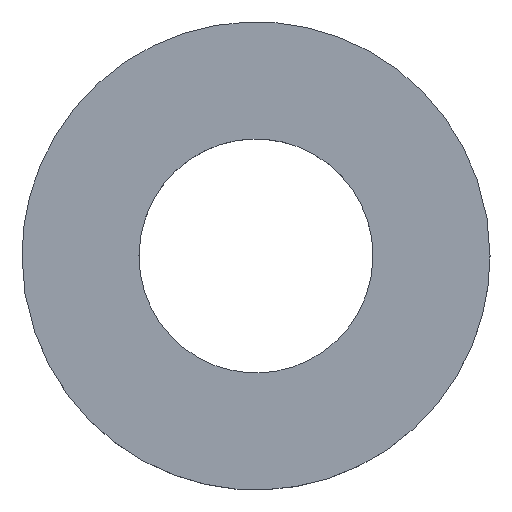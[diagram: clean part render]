
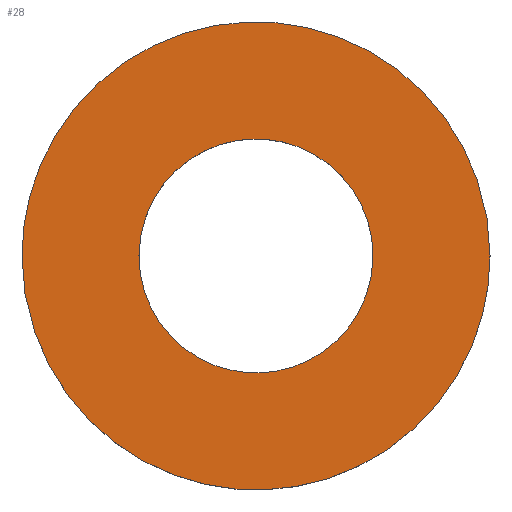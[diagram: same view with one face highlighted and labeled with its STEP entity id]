
A CAD part, top view. The second image highlights one B-rep face of the part: STEP entity #28.
In plain terms, the highlighted planar face has unit normal (0, 0, 1).
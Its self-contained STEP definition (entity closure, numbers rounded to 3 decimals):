
#25=FACE_BOUND('',#42,.T.);
#28=ADVANCED_FACE('',(#34,#25),#103,.T.);
#34=FACE_OUTER_BOUND('',#41,.T.);
#41=EDGE_LOOP('',(#54,#55));
#42=EDGE_LOOP('',(#56,#57));
#54=ORIENTED_EDGE('',*,*,#72,.T.);
#55=ORIENTED_EDGE('',*,*,#78,.T.);
#56=ORIENTED_EDGE('',*,*,#74,.T.);
#57=ORIENTED_EDGE('',*,*,#81,.T.);
#72=EDGE_CURVE('',#95,#99,#84,.T.);
#74=EDGE_CURVE('',#97,#101,#86,.T.);
#78=EDGE_CURVE('',#99,#95,#90,.T.);
#81=EDGE_CURVE('',#101,#97,#93,.T.);
#84=(
BOUNDED_CURVE()
B_SPLINE_CURVE(2,(#195,#196,#197,#198,#199),.UNSPECIFIED.,.F.,.F.)
B_SPLINE_CURVE_WITH_KNOTS((3,2,3),(0.,50.265,100.531),
 .UNSPECIFIED.)
CURVE()
GEOMETRIC_REPRESENTATION_ITEM()
RATIONAL_B_SPLINE_CURVE((1.,0.707,1.,0.707,1.))
REPRESENTATION_ITEM('')
);
#86=(
BOUNDED_CURVE()
B_SPLINE_CURVE(2,(#205,#206,#207,#208,#209),.UNSPECIFIED.,.F.,.F.)
B_SPLINE_CURVE_WITH_KNOTS((3,2,3),(-100.531,-75.398,-50.265),
 .UNSPECIFIED.)
CURVE()
GEOMETRIC_REPRESENTATION_ITEM()
RATIONAL_B_SPLINE_CURVE((1.,0.707,1.,0.707,1.))
REPRESENTATION_ITEM('')
);
#90=(
BOUNDED_CURVE()
B_SPLINE_CURVE(2,(#219,#220,#221,#222,#223),.UNSPECIFIED.,.F.,.F.)
B_SPLINE_CURVE_WITH_KNOTS((3,2,3),(100.531,150.796,201.062),
 .UNSPECIFIED.)
CURVE()
GEOMETRIC_REPRESENTATION_ITEM()
RATIONAL_B_SPLINE_CURVE((1.,0.707,1.,0.707,1.))
REPRESENTATION_ITEM('')
);
#93=(
BOUNDED_CURVE()
B_SPLINE_CURVE(2,(#231,#232,#233,#234,#235),.UNSPECIFIED.,.F.,.F.)
B_SPLINE_CURVE_WITH_KNOTS((3,2,3),(-50.265,-25.133,
0.),.UNSPECIFIED.)
CURVE()
GEOMETRIC_REPRESENTATION_ITEM()
RATIONAL_B_SPLINE_CURVE((1.,0.707,1.,0.707,1.))
REPRESENTATION_ITEM('')
);
#95=VERTEX_POINT('',#181);
#97=VERTEX_POINT('',#183);
#99=VERTEX_POINT('',#185);
#101=VERTEX_POINT('',#187);
#103=PLANE('',#129);
#129=AXIS2_PLACEMENT_3D('',#149,#134,$);
#134=DIRECTION('',(0.,0.,1.));
#149=CARTESIAN_POINT('',(-40.,-40.,30.));
#181=CARTESIAN_POINT('',(32.,0.,30.));
#183=CARTESIAN_POINT('',(16.,0.,30.));
#185=CARTESIAN_POINT('',(-32.,0.,30.));
#187=CARTESIAN_POINT('',(-16.,0.,30.));
#195=CARTESIAN_POINT('',(32.,0.,30.));
#196=CARTESIAN_POINT('',(32.,32.,30.));
#197=CARTESIAN_POINT('',(0.,32.,30.));
#198=CARTESIAN_POINT('',(-32.,32.,30.));
#199=CARTESIAN_POINT('',(-32.,0.,30.));
#205=CARTESIAN_POINT('',(16.,0.,30.));
#206=CARTESIAN_POINT('',(16.,-16.,30.));
#207=CARTESIAN_POINT('',(0.,-16.,30.));
#208=CARTESIAN_POINT('',(-16.,-16.,30.));
#209=CARTESIAN_POINT('',(-16.,0.,30.));
#219=CARTESIAN_POINT('',(-32.,0.,30.));
#220=CARTESIAN_POINT('',(-32.,-32.,30.));
#221=CARTESIAN_POINT('',(0.,-32.,30.));
#222=CARTESIAN_POINT('',(32.,-32.,30.));
#223=CARTESIAN_POINT('',(32.,0.,30.));
#231=CARTESIAN_POINT('',(-16.,0.,30.));
#232=CARTESIAN_POINT('',(-16.,16.,30.));
#233=CARTESIAN_POINT('',(0.,16.,30.));
#234=CARTESIAN_POINT('',(16.,16.,30.));
#235=CARTESIAN_POINT('',(16.,0.,30.));
